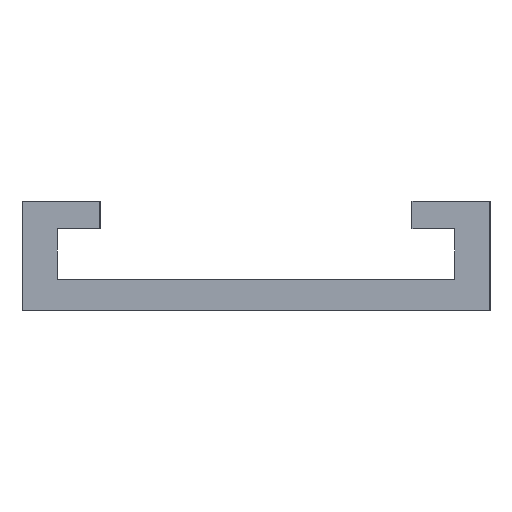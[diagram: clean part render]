
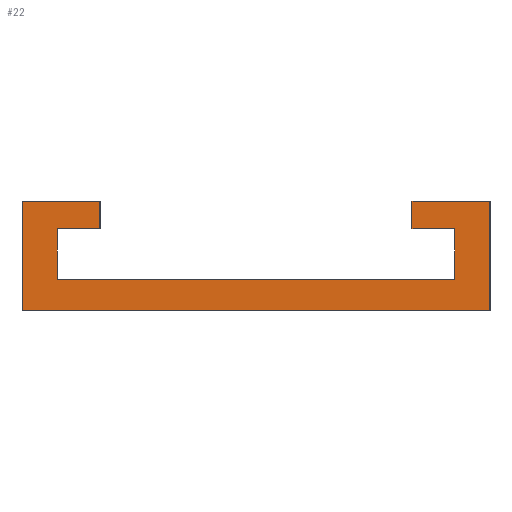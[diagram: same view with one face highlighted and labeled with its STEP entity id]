
A CAD part, left-side view. The second image highlights one B-rep face of the part: STEP entity #22.
In plain terms, the highlighted planar face has unit normal (-1, 0, 0).
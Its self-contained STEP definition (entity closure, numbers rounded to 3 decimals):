
#5 = LINE ( 'NONE', #182, #379 ) ;
#9 = CARTESIAN_POINT ( 'NONE',  ( 0., 20., 14. ) ) ;
#11 = CARTESIAN_POINT ( 'NONE',  ( 0., 30., 0. ) ) ;
#17 = ORIENTED_EDGE ( 'NONE', *, *, #393, .F. ) ;
#20 = VERTEX_POINT ( 'NONE', #51 ) ;
#22 = ADVANCED_FACE ( 'NONE', ( #445 ), #392, .F. ) ;
#23 = CARTESIAN_POINT ( 'NONE',  ( 0., 30., 14. ) ) ;
#24 = VECTOR ( 'NONE', #156, 1000. ) ;
#25 = VERTEX_POINT ( 'NONE', #158 ) ;
#31 = EDGE_LOOP ( 'NONE', ( #111, #157, #402, #17, #298, #107, #317, #294, #458, #378, #53, #396 ) ) ;
#43 = CARTESIAN_POINT ( 'NONE',  ( 0., 30., 14. ) ) ;
#44 = DIRECTION ( 'NONE',  ( 0., 0., -1. ) ) ;
#45 = DIRECTION ( 'NONE',  ( 0., -1., 0. ) ) ;
#51 = CARTESIAN_POINT ( 'NONE',  ( 0., -25.5, 4. ) ) ;
#52 = VERTEX_POINT ( 'NONE', #82 ) ;
#53 = ORIENTED_EDGE ( 'NONE', *, *, #410, .F. ) ;
#57 = DIRECTION ( 'NONE',  ( 0., -1., 0. ) ) ;
#63 = EDGE_CURVE ( 'NONE', #365, #290, #406, .T. ) ;
#69 = VERTEX_POINT ( 'NONE', #9 ) ;
#71 = VERTEX_POINT ( 'NONE', #162 ) ;
#75 = VECTOR ( 'NONE', #45, 1000. ) ;
#76 = CARTESIAN_POINT ( 'NONE',  ( 0., -30., 0. ) ) ;
#77 = DIRECTION ( 'NONE',  ( 0., 0., 1. ) ) ;
#80 = DIRECTION ( 'NONE',  ( 0., -1., 0. ) ) ;
#82 = CARTESIAN_POINT ( 'NONE',  ( 0., 20., 10.5 ) ) ;
#83 = VERTEX_POINT ( 'NONE', #258 ) ;
#86 = VECTOR ( 'NONE', #128, 1000. ) ;
#89 = CARTESIAN_POINT ( 'NONE',  ( 0., 25.5, 10.5 ) ) ;
#96 = LINE ( 'NONE', #23, #254 ) ;
#100 = EDGE_CURVE ( 'NONE', #71, #20, #249, .T. ) ;
#107 = ORIENTED_EDGE ( 'NONE', *, *, #63, .F. ) ;
#111 = ORIENTED_EDGE ( 'NONE', *, *, #153, .F. ) ;
#118 = DIRECTION ( 'NONE',  ( 0., 1., 0. ) ) ;
#120 = CARTESIAN_POINT ( 'NONE',  ( 0., -25.5, 10.5 ) ) ;
#128 = DIRECTION ( 'NONE',  ( 0., 0., 1. ) ) ;
#129 = EDGE_CURVE ( 'NONE', #52, #404, #167, .T. ) ;
#134 = VECTOR ( 'NONE', #266, 1000. ) ;
#143 = DIRECTION ( 'NONE',  ( 0., 0., -1. ) ) ;
#145 = VECTOR ( 'NONE', #143, 1000. ) ;
#146 = EDGE_CURVE ( 'NONE', #404, #71, #420, .T. ) ;
#153 = EDGE_CURVE ( 'NONE', #83, #432, #416, .T. ) ;
#156 = DIRECTION ( 'NONE',  ( 0., 1., 0. ) ) ;
#157 = ORIENTED_EDGE ( 'NONE', *, *, #270, .F. ) ;
#158 = CARTESIAN_POINT ( 'NONE',  ( 0., -20., 14. ) ) ;
#162 = CARTESIAN_POINT ( 'NONE',  ( 0., 25.5, 4. ) ) ;
#164 = LINE ( 'NONE', #427, #453 ) ;
#165 = VECTOR ( 'NONE', #329, 1000. ) ;
#167 = LINE ( 'NONE', #367, #24 ) ;
#181 = LINE ( 'NONE', #219, #282 ) ;
#182 = CARTESIAN_POINT ( 'NONE',  ( 0., -20., 10.5 ) ) ;
#194 = CARTESIAN_POINT ( 'NONE',  ( 0., 0., 0. ) ) ;
#199 = VECTOR ( 'NONE', #118, 1000. ) ;
#207 = CARTESIAN_POINT ( 'NONE',  ( 0., -25.5, 10.5 ) ) ;
#208 = CARTESIAN_POINT ( 'NONE',  ( 0., -20., 10.5 ) ) ;
#219 = CARTESIAN_POINT ( 'NONE',  ( 0., -25.5, 4. ) ) ;
#227 = DIRECTION ( 'NONE',  ( 1., 0., 0. ) ) ;
#231 = EDGE_CURVE ( 'NONE', #303, #312, #331, .T. ) ;
#249 = LINE ( 'NONE', #262, #324 ) ;
#254 = VECTOR ( 'NONE', #57, 1000. ) ;
#258 = CARTESIAN_POINT ( 'NONE',  ( 0., 30., 0. ) ) ;
#262 = CARTESIAN_POINT ( 'NONE',  ( 0., 25.5, 4. ) ) ;
#266 = DIRECTION ( 'NONE',  ( 0., 1., 0. ) ) ;
#270 = EDGE_CURVE ( 'NONE', #312, #83, #405, .T. ) ;
#279 = CARTESIAN_POINT ( 'NONE',  ( 0., -30., 14. ) ) ;
#282 = VECTOR ( 'NONE', #77, 1000. ) ;
#286 = CARTESIAN_POINT ( 'NONE',  ( 0., -20., 14. ) ) ;
#290 = VERTEX_POINT ( 'NONE', #208 ) ;
#294 = ORIENTED_EDGE ( 'NONE', *, *, #100, .F. ) ;
#298 = ORIENTED_EDGE ( 'NONE', *, *, #368, .F. ) ;
#303 = VERTEX_POINT ( 'NONE', #322 ) ;
#312 = VERTEX_POINT ( 'NONE', #411 ) ;
#317 = ORIENTED_EDGE ( 'NONE', *, *, #443, .F. ) ;
#321 = EDGE_CURVE ( 'NONE', #432, #69, #96, .T. ) ;
#322 = CARTESIAN_POINT ( 'NONE',  ( 0., -30., 14. ) ) ;
#324 = VECTOR ( 'NONE', #80, 1000. ) ;
#328 = CARTESIAN_POINT ( 'NONE',  ( 0., 25.5, 10.5 ) ) ;
#329 = DIRECTION ( 'NONE',  ( 0., 0., -1. ) ) ;
#331 = LINE ( 'NONE', #279, #145 ) ;
#332 = AXIS2_PLACEMENT_3D ( 'NONE', #194, #227, #44 ) ;
#365 = VERTEX_POINT ( 'NONE', #207 ) ;
#367 = CARTESIAN_POINT ( 'NONE',  ( 0., 20., 10.5 ) ) ;
#368 = EDGE_CURVE ( 'NONE', #290, #25, #5, .T. ) ;
#378 = ORIENTED_EDGE ( 'NONE', *, *, #129, .F. ) ;
#379 = VECTOR ( 'NONE', #465, 1000. ) ;
#383 = LINE ( 'NONE', #286, #75 ) ;
#390 = DIRECTION ( 'NONE',  ( 0., 0., -1. ) ) ;
#392 = PLANE ( 'NONE',  #332 ) ;
#393 = EDGE_CURVE ( 'NONE', #25, #303, #383, .T. ) ;
#396 = ORIENTED_EDGE ( 'NONE', *, *, #321, .F. ) ;
#402 = ORIENTED_EDGE ( 'NONE', *, *, #231, .F. ) ;
#404 = VERTEX_POINT ( 'NONE', #328 ) ;
#405 = LINE ( 'NONE', #76, #199 ) ;
#406 = LINE ( 'NONE', #120, #134 ) ;
#410 = EDGE_CURVE ( 'NONE', #69, #52, #164, .T. ) ;
#411 = CARTESIAN_POINT ( 'NONE',  ( 0., -30., 0. ) ) ;
#416 = LINE ( 'NONE', #11, #86 ) ;
#420 = LINE ( 'NONE', #89, #165 ) ;
#427 = CARTESIAN_POINT ( 'NONE',  ( 0., 20., 14. ) ) ;
#432 = VERTEX_POINT ( 'NONE', #43 ) ;
#443 = EDGE_CURVE ( 'NONE', #20, #365, #181, .T. ) ;
#445 = FACE_OUTER_BOUND ( 'NONE', #31, .T. ) ;
#453 = VECTOR ( 'NONE', #390, 1000. ) ;
#458 = ORIENTED_EDGE ( 'NONE', *, *, #146, .F. ) ;
#465 = DIRECTION ( 'NONE',  ( 0., 0., 1. ) ) ;
